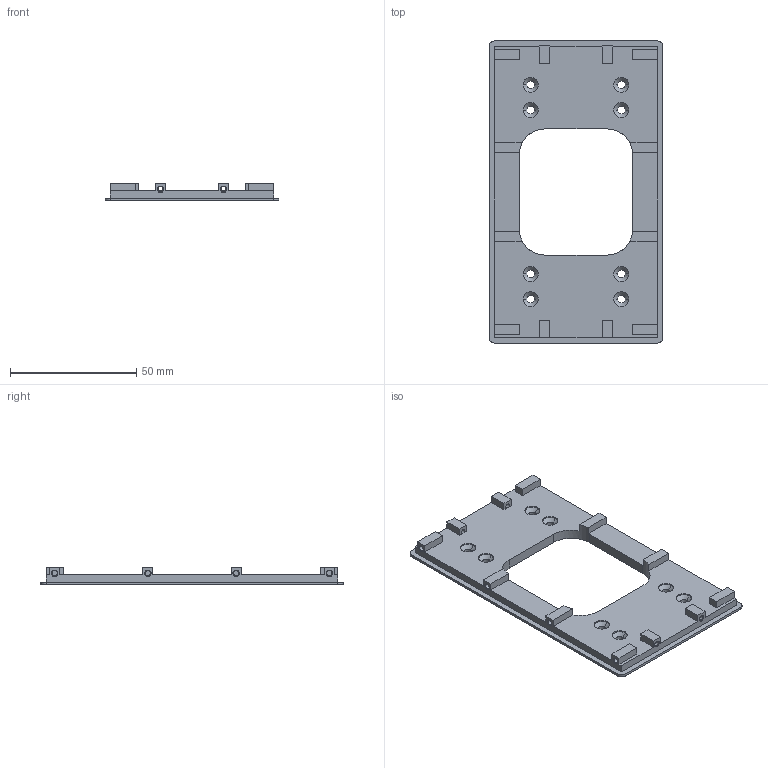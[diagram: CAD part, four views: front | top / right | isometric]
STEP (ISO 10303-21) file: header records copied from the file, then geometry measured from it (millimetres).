
FILE_DESCRIPTION (( 'STEP AP203' ), '1' );
FILE_NAME ('蟀諉碟极5.STEP', '2026-09-24T07:00:41', ( '' ), ( '' ), 'SwSTEP 2.0', 'SolidWorks 2016', '' );
FILE_SCHEMA (( 'CONFIG_CONTROL_DESIGN' ));
Length unit declared in the file: millimetre
Products named in the file (1): 蟀諉碟极5
Bounding box: 68.8 x 119.8 x 7 mm (x, y, z)
Volume: 22728.5 mm3; surface area: 15958.2 mm2
Topology: 1 solids, 1 shells, 178 faces, 452 edges, 280 vertices
Faces by surface type: plane 74, cylinder 64, cone 40
Entity records: 5461 total; most frequent: DIRECTION 978, CARTESIAN_POINT 911, ORIENTED_EDGE 904, EDGE_CURVE 452, AXIS2_PLACEMENT_3D 347, LINE 284, VECTOR 284, VERTEX_POINT 280
